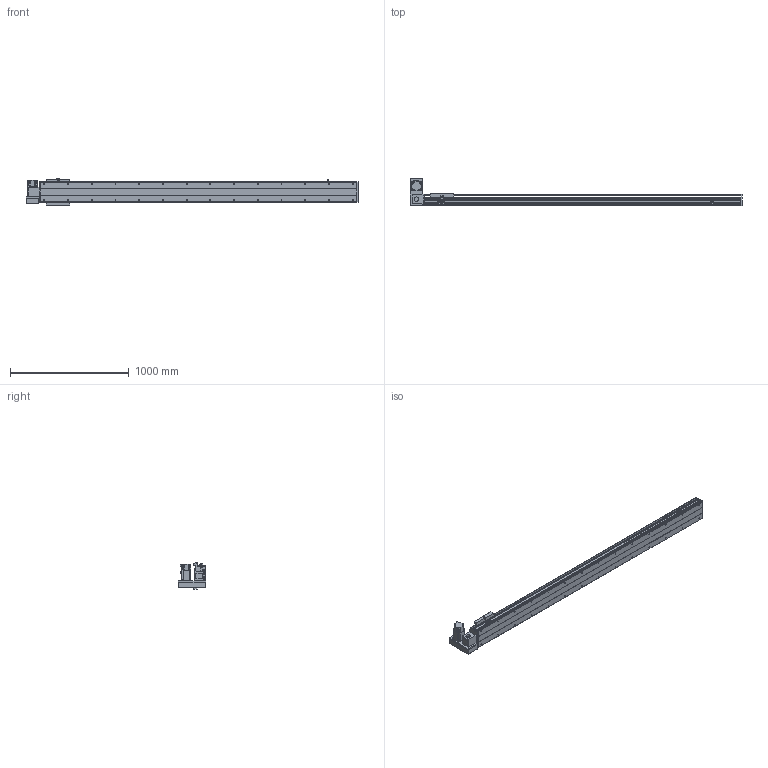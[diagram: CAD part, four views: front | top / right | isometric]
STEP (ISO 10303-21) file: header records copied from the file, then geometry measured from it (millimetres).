
FILE_DESCRIPTION(/* description */ ('STEP AP214'),/* implementation_level */ '2;1');
FILE_NAME(/* name */ 'PBS200-P40-S2300-LU-T75-C1-N(0)',/* time_stamp */ '2022-06-11T09:02:47+02:00',/* author */ ('License CC BY-ND 4.0'),/* organization */ ('CADENAS'),/* preprocessor_version */ 'ST-DEVELOPER v18.102',/* originating_system */ 'PARTsolutions',/* authorisation */ ' ');
FILE_SCHEMA (('AUTOMOTIVE_DESIGN {1 0 10303 214 3 1 1}'));
Length unit declared in the file: millimetre
Products named in the file (7): PBS200-P40-S2300-LU-T75-C1-N(0); PBS200_sensor; PBS200_plant; PBS200_sliser; T75-p1; PBS200T-LU_motors; PBS200-S2300()_body
Assembly tree (8 placements, depth 2):
  PBS200-P40-S2300-LU-T75-C1-N(0)
    PBS200_sensor  x3
    PBS200_plant
    PBS200_sliser
    T75-p1
    PBS200T-LU_motors
    PBS200-S2300()_body
Bounding box: 2800 x 231 x 221 mm (x, y, z)
Volume: 19355425.5 mm3; surface area: 3099216.1 mm2
Topology: 8 solids, 8 shells, 956 faces, 2434 edges, 1584 vertices
Faces by surface type: plane 586, cylinder 310, cone 60
Full cylindrical faces by diameter (mm): 2.459 x6, 3.242 x4, 4.5 x6, 4.917 x4, 5 x6, 6 x7, 6.6 x8, 6.647 x32, 8 x6, 10 x4, 12 x8, 38 x2, 40 x1, 70 x1
Entity records: 25301 total; most frequent: DIRECTION 4471, CARTESIAN_POINT 4300, ORIENTED_EDGE 4054, EDGE_CURVE 2027, AXIS2_PLACEMENT_3D 1579, VERTEX_POINT 1408, LINE 1313, VECTOR 1313
